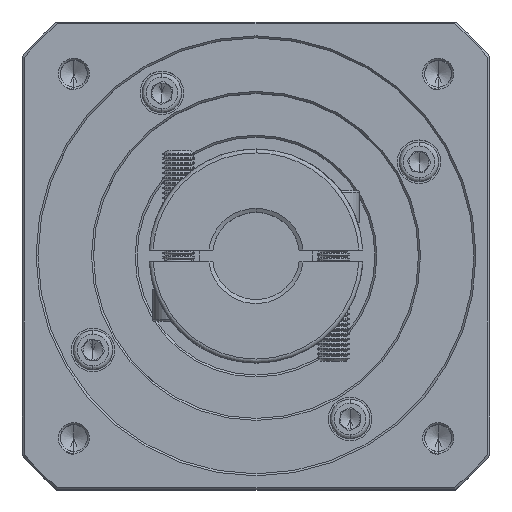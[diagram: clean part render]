
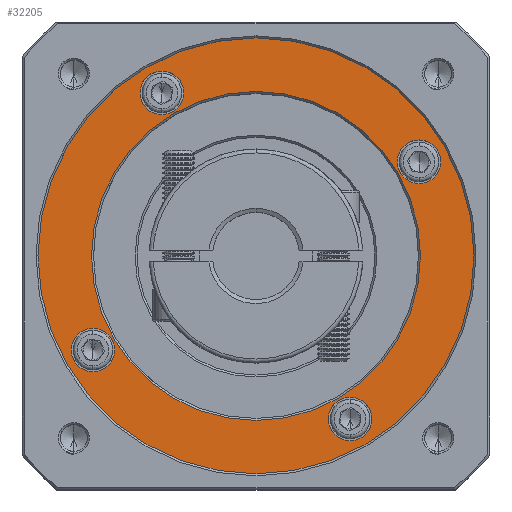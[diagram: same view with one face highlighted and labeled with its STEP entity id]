
A CAD part, top view. The second image highlights one B-rep face of the part: STEP entity #32205.
In plain terms, the highlighted planar face has unit normal (0, 0, 1).
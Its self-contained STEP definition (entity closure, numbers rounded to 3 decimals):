
#2076 = DIRECTION ( 'NONE',  ( 0., 1., 0. ) ) ;
#3920 = EDGE_CURVE ( 'NONE', #86126, #90443, #136993, .T. ) ;
#4569 = EDGE_CURVE ( 'NONE', #71180, #27696, #116589, .T. ) ;
#7673 = AXIS2_PLACEMENT_3D ( 'NONE', #11621, #119205, #129016 ) ;
#8341 = AXIS2_PLACEMENT_3D ( 'NONE', #73194, #52032, #104183 ) ;
#8608 = EDGE_CURVE ( 'NONE', #102405, #122900, #109462, .T. ) ;
#9405 = DIRECTION ( 'NONE',  ( 0., 0., -1. ) ) ;
#9599 = DIRECTION ( 'NONE',  ( 0., 0., -1. ) ) ;
#9888 = ORIENTED_EDGE ( 'NONE', *, *, #34624, .T. ) ;
#11621 = CARTESIAN_POINT ( 'NONE',  ( 81.251, 23.338, 8.74 ) ) ;
#13691 = FACE_BOUND ( 'NONE', #113504, .T. ) ;
#14327 = CARTESIAN_POINT ( 'NONE',  ( 98.637, 88.224, 8.74 ) ) ;
#15166 = DIRECTION ( 'NONE',  ( 0., 0., -1. ) ) ;
#15340 = EDGE_CURVE ( 'NONE', #84036, #52598, #90142, .T. ) ;
#23069 = CARTESIAN_POINT ( 'NONE',  ( 81.251, 23.338, 8.74 ) ) ;
#24513 = CARTESIAN_POINT ( 'NONE',  ( 16.365, 40.724, 8.74 ) ) ;
#24682 = ORIENTED_EDGE ( 'NONE', *, *, #31220, .T. ) ;
#25310 = DIRECTION ( 'NONE',  ( 0., 1., 0. ) ) ;
#25642 = DIRECTION ( 'NONE',  ( 0., 1., 0. ) ) ;
#27696 = VERTEX_POINT ( 'NONE', #68128 ) ;
#28680 = FACE_BOUND ( 'NONE', #114806, .T. ) ;
#30647 = CARTESIAN_POINT ( 'NONE',  ( 57.501, 64.474, 8.74 ) ) ;
#30682 = EDGE_CURVE ( 'NONE', #104105, #137359, #99323, .T. ) ;
#30718 = CARTESIAN_POINT ( 'NONE',  ( 57.501, 64.474, 8.74 ) ) ;
#31220 = EDGE_CURVE ( 'NONE', #61689, #118695, #57242, .T. ) ;
#31382 = DIRECTION ( 'NONE',  ( 0., 1., 0. ) ) ;
#32205 = ADVANCED_FACE ( 'NONE', ( #117904, #28680, #87789, #65977, #13691, #112903 ), #62836, .T. ) ;
#34624 = EDGE_CURVE ( 'NONE', #137359, #104105, #53127, .T. ) ;
#36449 = EDGE_LOOP ( 'NONE', ( #54549, #9888 ) ) ;
#37862 = DIRECTION ( 'NONE',  ( 0., 0., 1. ) ) ;
#38737 = ORIENTED_EDGE ( 'NONE', *, *, #80351, .T. ) ;
#38796 = ORIENTED_EDGE ( 'NONE', *, *, #65746, .T. ) ;
#41032 = DIRECTION ( 'NONE',  ( 0., 0., -1. ) ) ;
#41825 = DIRECTION ( 'NONE',  ( 0., 0., -1. ) ) ;
#43950 = DIRECTION ( 'NONE',  ( 0., 0., -1. ) ) ;
#45628 = AXIS2_PLACEMENT_3D ( 'NONE', #73873, #9405, #95975 ) ;
#45908 = CARTESIAN_POINT ( 'NONE',  ( 16.365, 46.224, 8.74 ) ) ;
#46685 = DIRECTION ( 'NONE',  ( 0., 1., 0. ) ) ;
#48976 = AXIS2_PLACEMENT_3D ( 'NONE', #14327, #99931, #89612 ) ;
#52032 = DIRECTION ( 'NONE',  ( 0., 0., 1. ) ) ;
#52598 = VERTEX_POINT ( 'NONE', #61192 ) ;
#53127 = CIRCLE ( 'NONE', #7673, 5.5 ) ;
#54549 = ORIENTED_EDGE ( 'NONE', *, *, #30682, .T. ) ;
#54916 = ORIENTED_EDGE ( 'NONE', *, *, #74825, .T. ) ;
#56104 = ORIENTED_EDGE ( 'NONE', *, *, #4569, .T. ) ;
#57242 = CIRCLE ( 'NONE', #97873, 5.5 ) ;
#59708 = ORIENTED_EDGE ( 'NONE', *, *, #3920, .T. ) ;
#61169 = AXIS2_PLACEMENT_3D ( 'NONE', #24513, #15166, #46685 ) ;
#61192 = CARTESIAN_POINT ( 'NONE',  ( 16.001, 64.474, 8.74 ) ) ;
#61689 = VERTEX_POINT ( 'NONE', #111573 ) ;
#62836 = PLANE ( 'NONE',  #8341 ) ;
#65746 = EDGE_CURVE ( 'NONE', #122900, #102405, #109742, .T. ) ;
#65977 = FACE_BOUND ( 'NONE', #98871, .T. ) ;
#66489 = CARTESIAN_POINT ( 'NONE',  ( 16.365, 40.724, 8.74 ) ) ;
#68128 = CARTESIAN_POINT ( 'NONE',  ( 57.501, 119.474, 8.74 ) ) ;
#71180 = VERTEX_POINT ( 'NONE', #83099 ) ;
#72673 = DIRECTION ( 'NONE',  ( 1., 0., 0. ) ) ;
#73194 = CARTESIAN_POINT ( 'NONE',  ( 57.501, 64.474, 8.74 ) ) ;
#73417 = AXIS2_PLACEMENT_3D ( 'NONE', #30647, #41032, #127420 ) ;
#73873 = CARTESIAN_POINT ( 'NONE',  ( 33.751, 105.611, 8.74 ) ) ;
#74302 = CARTESIAN_POINT ( 'NONE',  ( 33.751, 105.611, 8.74 ) ) ;
#74825 = EDGE_CURVE ( 'NONE', #118695, #61689, #80489, .T. ) ;
#80351 = EDGE_CURVE ( 'NONE', #52598, #84036, #120854, .T. ) ;
#80373 = CARTESIAN_POINT ( 'NONE',  ( 33.751, 100.111, 8.74 ) ) ;
#80489 = CIRCLE ( 'NONE', #45628, 5.5 ) ;
#81136 = CARTESIAN_POINT ( 'NONE',  ( 57.501, 64.474, 8.74 ) ) ;
#81217 = CIRCLE ( 'NONE', #89013, 5.5 ) ;
#82046 = CARTESIAN_POINT ( 'NONE',  ( 81.251, 28.838, 8.74 ) ) ;
#83099 = CARTESIAN_POINT ( 'NONE',  ( 57.501, 9.474, 8.74 ) ) ;
#84036 = VERTEX_POINT ( 'NONE', #139014 ) ;
#84895 = DIRECTION ( 'NONE',  ( 0., 0., -1. ) ) ;
#86126 = VERTEX_POINT ( 'NONE', #45908 ) ;
#86168 = DIRECTION ( 'NONE',  ( 0., 1., 0. ) ) ;
#87789 = FACE_BOUND ( 'NONE', #104060, .T. ) ;
#88884 = ORIENTED_EDGE ( 'NONE', *, *, #130834, .T. ) ;
#89013 = AXIS2_PLACEMENT_3D ( 'NONE', #66489, #43950, #2076 ) ;
#89612 = DIRECTION ( 'NONE',  ( 0., 1., 0. ) ) ;
#90142 = CIRCLE ( 'NONE', #107173, 41.5 ) ;
#90443 = VERTEX_POINT ( 'NONE', #94764 ) ;
#92512 = ORIENTED_EDGE ( 'NONE', *, *, #15340, .T. ) ;
#93419 = CARTESIAN_POINT ( 'NONE',  ( 98.637, 93.724, 8.74 ) ) ;
#94764 = CARTESIAN_POINT ( 'NONE',  ( 16.365, 35.224, 8.74 ) ) ;
#95103 = ORIENTED_EDGE ( 'NONE', *, *, #96685, .T. ) ;
#95284 = CARTESIAN_POINT ( 'NONE',  ( 98.637, 88.224, 8.74 ) ) ;
#95344 = EDGE_LOOP ( 'NONE', ( #95103, #56104 ) ) ;
#95782 = DIRECTION ( 'NONE',  ( 0., 1., 0. ) ) ;
#95975 = DIRECTION ( 'NONE',  ( 0., 1., 0. ) ) ;
#96685 = EDGE_CURVE ( 'NONE', #27696, #71180, #122715, .T. ) ;
#97873 = AXIS2_PLACEMENT_3D ( 'NONE', #74302, #41825, #31382 ) ;
#98833 = ORIENTED_EDGE ( 'NONE', *, *, #8608, .T. ) ;
#98871 = EDGE_LOOP ( 'NONE', ( #98833, #38796 ) ) ;
#99323 = CIRCLE ( 'NONE', #123796, 5.5 ) ;
#99698 = CARTESIAN_POINT ( 'NONE',  ( 57.501, 64.474, 8.74 ) ) ;
#99931 = DIRECTION ( 'NONE',  ( 0., 0., -1. ) ) ;
#102405 = VERTEX_POINT ( 'NONE', #93419 ) ;
#104060 = EDGE_LOOP ( 'NONE', ( #24682, #54916 ) ) ;
#104105 = VERTEX_POINT ( 'NONE', #82046 ) ;
#104183 = DIRECTION ( 'NONE',  ( 0., 1., 0. ) ) ;
#107173 = AXIS2_PLACEMENT_3D ( 'NONE', #30718, #9599, #72673 ) ;
#109462 = CIRCLE ( 'NONE', #121216, 5.5 ) ;
#109742 = CIRCLE ( 'NONE', #48976, 5.5 ) ;
#111573 = CARTESIAN_POINT ( 'NONE',  ( 33.751, 111.111, 8.74 ) ) ;
#112903 = FACE_BOUND ( 'NONE', #36449, .T. ) ;
#113504 = EDGE_LOOP ( 'NONE', ( #59708, #88884 ) ) ;
#114806 = EDGE_LOOP ( 'NONE', ( #92512, #38737 ) ) ;
#116589 = CIRCLE ( 'NONE', #132285, 55. ) ;
#117904 = FACE_OUTER_BOUND ( 'NONE', #95344, .T. ) ;
#118695 = VERTEX_POINT ( 'NONE', #80373 ) ;
#119205 = DIRECTION ( 'NONE',  ( 0., 0., -1. ) ) ;
#120854 = CIRCLE ( 'NONE', #73417, 41.5 ) ;
#121216 = AXIS2_PLACEMENT_3D ( 'NONE', #95284, #84895, #95782 ) ;
#121664 = DIRECTION ( 'NONE',  ( 0., 0., 1. ) ) ;
#122715 = CIRCLE ( 'NONE', #130354, 55. ) ;
#122900 = VERTEX_POINT ( 'NONE', #131030 ) ;
#123796 = AXIS2_PLACEMENT_3D ( 'NONE', #23069, #130670, #86168 ) ;
#127420 = DIRECTION ( 'NONE',  ( 1., 0., 0. ) ) ;
#129016 = DIRECTION ( 'NONE',  ( 0., 1., 0. ) ) ;
#130354 = AXIS2_PLACEMENT_3D ( 'NONE', #81136, #37862, #25642 ) ;
#130670 = DIRECTION ( 'NONE',  ( 0., 0., -1. ) ) ;
#130834 = EDGE_CURVE ( 'NONE', #90443, #86126, #81217, .T. ) ;
#131030 = CARTESIAN_POINT ( 'NONE',  ( 98.637, 82.724, 8.74 ) ) ;
#132285 = AXIS2_PLACEMENT_3D ( 'NONE', #99698, #121664, #25310 ) ;
#136993 = CIRCLE ( 'NONE', #61169, 5.5 ) ;
#137359 = VERTEX_POINT ( 'NONE', #137992 ) ;
#137992 = CARTESIAN_POINT ( 'NONE',  ( 81.251, 17.838, 8.74 ) ) ;
#139014 = CARTESIAN_POINT ( 'NONE',  ( 99.001, 64.474, 8.74 ) ) ;
